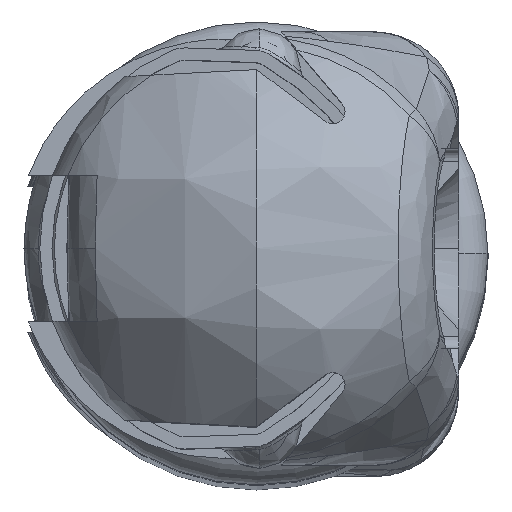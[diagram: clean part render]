
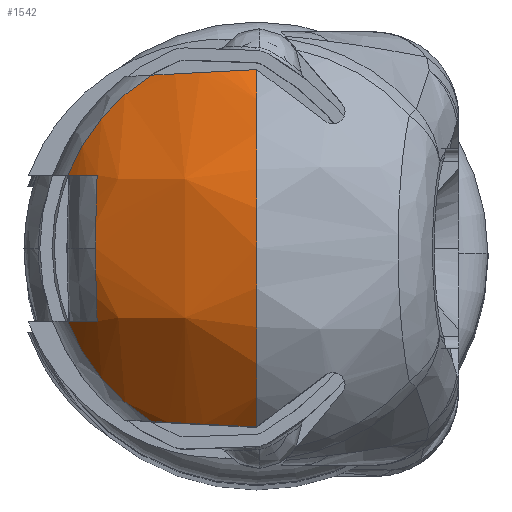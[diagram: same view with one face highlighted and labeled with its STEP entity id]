
A CAD part, top view. The second image highlights one B-rep face of the part: STEP entity #1542.
In plain terms, the highlighted free-form (B-spline) face has degree [3, 3] with [4, 4] control points.
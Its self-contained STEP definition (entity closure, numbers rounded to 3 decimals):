
#388 = CARTESIAN_POINT ( 'NONE',  ( -8.439, 3., 6.546 ) ) ;
#415 = CARTESIAN_POINT ( 'NONE',  ( -9.008, 0., 6.606 ) ) ;
#568 = CARTESIAN_POINT ( 'NONE',  ( -8.297, -7.335, 0. ) ) ;
#572 = CARTESIAN_POINT ( 'NONE',  ( -8.297, 7.335, 0. ) ) ;
#605 = CARTESIAN_POINT ( 'NONE',  ( -7.066, 3., 7.747 ) ) ;
#657 = CARTESIAN_POINT ( 'NONE',  ( -8.439, -3., 6.546 ) ) ;
#676 = CARTESIAN_POINT ( 'NONE',  ( -7.066, 7.11, 4.298 ) ) ;
#679 = CARTESIAN_POINT ( 'NONE',  ( -7.066, -7.11, 4.298 ) ) ;
#682 = CARTESIAN_POINT ( 'NONE',  ( -7.066, -3., 7.747 ) ) ;
#1542 = ADVANCED_FACE ( 'NONE', ( #7465 ), #7233, .T. ) ;
#1624 = EDGE_CURVE ( 'NONE', #5061, #5057, #2141, .T. ) ;
#1694 = EDGE_CURVE ( 'NONE', #5207, #5233, #2219, .T. ) ;
#2141 = CIRCLE ( 'NONE', #2151, 10. ) ;
#2151 = AXIS2_PLACEMENT_3D ( 'NONE', #13273, #13272, #13271 ) ;
#2219 = CIRCLE ( 'NONE', #2222, 8.157 ) ;
#2222 = AXIS2_PLACEMENT_3D ( 'NONE', #12966, #12965, #12964 ) ;
#2300 = CIRCLE ( 'NONE', #2307, 9.539 ) ;
#2307 = AXIS2_PLACEMENT_3D ( 'NONE', #18766, #18765, #18761 ) ;
#2313 = CIRCLE ( 'NONE', #2316, 8.157 ) ;
#2316 = AXIS2_PLACEMENT_3D ( 'NONE', #18664, #18663, #18662 ) ;
#2334 = CIRCLE ( 'NONE', #2338, 8.308 ) ;
#2338 = AXIS2_PLACEMENT_3D ( 'NONE', #18534, #18533, #18532 ) ;
#3192 = B_SPLINE_CURVE_WITH_KNOTS ( 'NONE', 3,
 ( #15466, #15467, #15468, #15469, #15470, #15471 ),
 .UNSPECIFIED., .F., .F.,
 ( 4, 2, 4 ),
 ( 0., 0.002, 0.005 ),
 .UNSPECIFIED. ) ;
#3193 = B_SPLINE_CURVE_WITH_KNOTS ( 'NONE', 3,
 ( #15472, #15473, #15474, #15475, #15476, #15477 ),
 .UNSPECIFIED., .F., .F.,
 ( 4, 2, 4 ),
 ( 0., 0.002, 0.005 ),
 .UNSPECIFIED. ) ;
#3365 = CIRCLE ( 'NONE', #3370, 8.308 ) ;
#3370 = AXIS2_PLACEMENT_3D ( 'NONE', #15407, #15408, #15409 ) ;
#3424 = CIRCLE ( 'NONE', #3426, 9.539 ) ;
#3426 = AXIS2_PLACEMENT_3D ( 'NONE', #15675, #15676, #15677 ) ;
#3967 = EDGE_LOOP ( 'NONE', ( #4383, #4385, #4384, #4387, #4386, #4388, #4389, #4390, #4391 ) ) ;
#4383 = ORIENTED_EDGE ( 'NONE', *, *, #1624, .F. ) ;
#4384 = ORIENTED_EDGE ( 'NONE', *, *, #9449, .T. ) ;
#4385 = ORIENTED_EDGE ( 'NONE', *, *, #18334, .F. ) ;
#4386 = ORIENTED_EDGE ( 'NONE', *, *, #9423, .T. ) ;
#4387 = ORIENTED_EDGE ( 'NONE', *, *, #9408, .T. ) ;
#4388 = ORIENTED_EDGE ( 'NONE', *, *, #1694, .T. ) ;
#4389 = ORIENTED_EDGE ( 'NONE', *, *, #18369, .F. ) ;
#4390 = ORIENTED_EDGE ( 'NONE', *, *, #18314, .F. ) ;
#4391 = ORIENTED_EDGE ( 'NONE', *, *, #18333, .F. ) ;
#4953 = VERTEX_POINT ( 'NONE', #682 ) ;
#4955 = VERTEX_POINT ( 'NONE', #679 ) ;
#4958 = VERTEX_POINT ( 'NONE', #676 ) ;
#4976 = VERTEX_POINT ( 'NONE', #657 ) ;
#5027 = VERTEX_POINT ( 'NONE', #605 ) ;
#5057 = VERTEX_POINT ( 'NONE', #572 ) ;
#5061 = VERTEX_POINT ( 'NONE', #568 ) ;
#5207 = VERTEX_POINT ( 'NONE', #415 ) ;
#5233 = VERTEX_POINT ( 'NONE', #388 ) ;
#7233 =( BOUNDED_SURFACE ( )  B_SPLINE_SURFACE ( 3, 3, ( 
 ( #11395, #11424, #11537, #11668 ),
 ( #11293, #11257, #11290, #11706 ),
 ( #11707, #11692, #11695, #11792 ),
 ( #10880, #11785, #11764, #11691 ) ),
 .UNSPECIFIED., .F., .F., .F. ) 
 B_SPLINE_SURFACE_WITH_KNOTS ( ( 4, 4 ),
 ( 4, 4 ),
 ( 0., 1. ),
 ( 0., 1. ),
 .UNSPECIFIED. ) 
 GEOMETRIC_REPRESENTATION_ITEM ( )  RATIONAL_B_SPLINE_SURFACE ( (
 ( 1., 0.926, 0.926, 1.),
 ( 0.782, 0.724, 0.724, 0.782),
 ( 0.782, 0.724, 0.724, 0.782),
 ( 1., 0.926, 0.926, 1.) ) ) 
 REPRESENTATION_ITEM ( '' )  SURFACE ( )  );
#7465 = FACE_OUTER_BOUND ( 'NONE', #3967, .T. ) ;
#9408 = EDGE_CURVE ( 'NONE', #4953, #4976, #2300, .T. ) ;
#9423 = EDGE_CURVE ( 'NONE', #4976, #5207, #2313, .T. ) ;
#9449 = EDGE_CURVE ( 'NONE', #4955, #4953, #2334, .T. ) ;
#10880 = CARTESIAN_POINT ( 'NONE',  ( -5.392, 7.402, 5.483 ) ) ;
#11257 = CARTESIAN_POINT ( 'NONE',  ( -11.169, -3.157, 7.113 ) ) ;
#11290 = CARTESIAN_POINT ( 'NONE',  ( -12.897, -3.157, 3.767 ) ) ;
#11293 = CARTESIAN_POINT ( 'NONE',  ( -8.097, -3.157, 9.293 ) ) ;
#11395 = CARTESIAN_POINT ( 'NONE',  ( -5.392, -7.402, 5.483 ) ) ;
#11424 = CARTESIAN_POINT ( 'NONE',  ( -7.204, -7.402, 4.197 ) ) ;
#11537 = CARTESIAN_POINT ( 'NONE',  ( -8.224, -7.402, 2.222 ) ) ;
#11668 = CARTESIAN_POINT ( 'NONE',  ( -8.224, -7.402, 0. ) ) ;
#11691 = CARTESIAN_POINT ( 'NONE',  ( -8.224, 7.402, 0. ) ) ;
#11692 = CARTESIAN_POINT ( 'NONE',  ( -11.169, 3.157, 7.113 ) ) ;
#11695 = CARTESIAN_POINT ( 'NONE',  ( -12.897, 3.157, 3.767 ) ) ;
#11706 = CARTESIAN_POINT ( 'NONE',  ( -12.897, -3.157, 0. ) ) ;
#11707 = CARTESIAN_POINT ( 'NONE',  ( -8.097, 3.157, 9.293 ) ) ;
#11764 = CARTESIAN_POINT ( 'NONE',  ( -8.224, 7.402, 2.222 ) ) ;
#11785 = CARTESIAN_POINT ( 'NONE',  ( -7.204, 7.402, 4.197 ) ) ;
#11792 = CARTESIAN_POINT ( 'NONE',  ( -12.897, 3.157, 0. ) ) ;
#12964 = DIRECTION ( 'NONE',  ( -0.995, 0., 0.105 ) ) ;
#12965 = DIRECTION ( 'NONE',  ( -0.105, 0., -0.995 ) ) ;
#12966 = CARTESIAN_POINT ( 'NONE',  ( -0.895, 0., 5.753 ) ) ;
#13271 = DIRECTION ( 'NONE',  ( 0., -1., 0. ) ) ;
#13272 = DIRECTION ( 'NONE',  ( 0., 0., -1. ) ) ;
#13273 = CARTESIAN_POINT ( 'NONE',  ( -1.5, 0., 0. ) ) ;
#15407 = CARTESIAN_POINT ( 'NONE',  ( -7.066, 0., 0. ) ) ;
#15408 = DIRECTION ( 'NONE',  ( 1., 0., 0. ) ) ;
#15409 = DIRECTION ( 'NONE',  ( 0., 0., -1. ) ) ;
#15466 = CARTESIAN_POINT ( 'NONE',  ( -8.297, 7.335, 0. ) ) ;
#15467 = CARTESIAN_POINT ( 'NONE',  ( -8.34, 7.295, 0.765 ) ) ;
#15468 = CARTESIAN_POINT ( 'NONE',  ( -8.256, 7.256, 1.516 ) ) ;
#15469 = CARTESIAN_POINT ( 'NONE',  ( -7.835, 7.178, 2.989 ) ) ;
#15470 = CARTESIAN_POINT ( 'NONE',  ( -7.508, 7.143, 3.671 ) ) ;
#15471 = CARTESIAN_POINT ( 'NONE',  ( -7.066, 7.11, 4.298 ) ) ;
#15472 = CARTESIAN_POINT ( 'NONE',  ( -7.066, -7.11, 4.298 ) ) ;
#15473 = CARTESIAN_POINT ( 'NONE',  ( -7.508, -7.143, 3.671 ) ) ;
#15474 = CARTESIAN_POINT ( 'NONE',  ( -7.834, -7.178, 2.99 ) ) ;
#15475 = CARTESIAN_POINT ( 'NONE',  ( -8.256, -7.256, 1.517 ) ) ;
#15476 = CARTESIAN_POINT ( 'NONE',  ( -8.34, -7.295, 0.765 ) ) ;
#15477 = CARTESIAN_POINT ( 'NONE',  ( -8.297, -7.335, 0. ) ) ;
#15675 = CARTESIAN_POINT ( 'NONE',  ( -1.5, 3., 0. ) ) ;
#15676 = DIRECTION ( 'NONE',  ( 0., -1., 0. ) ) ;
#15677 = DIRECTION ( 'NONE',  ( 1., 0., 0. ) ) ;
#18314 = EDGE_CURVE ( 'NONE', #4958, #5027, #3365, .T. ) ;
#18333 = EDGE_CURVE ( 'NONE', #5057, #4958, #3192, .T. ) ;
#18334 = EDGE_CURVE ( 'NONE', #4955, #5061, #3193, .T. ) ;
#18369 = EDGE_CURVE ( 'NONE', #5027, #5233, #3424, .T. ) ;
#18532 = DIRECTION ( 'NONE',  ( 0., 0., -1. ) ) ;
#18533 = DIRECTION ( 'NONE',  ( -1., 0., 0. ) ) ;
#18534 = CARTESIAN_POINT ( 'NONE',  ( -7.066, 0., 0. ) ) ;
#18662 = DIRECTION ( 'NONE',  ( -0.995, 0., 0.105 ) ) ;
#18663 = DIRECTION ( 'NONE',  ( -0.105, 0., -0.995 ) ) ;
#18664 = CARTESIAN_POINT ( 'NONE',  ( -0.895, 0., 5.753 ) ) ;
#18761 = DIRECTION ( 'NONE',  ( 1., 0., 0. ) ) ;
#18765 = DIRECTION ( 'NONE',  ( 0., -1., 0. ) ) ;
#18766 = CARTESIAN_POINT ( 'NONE',  ( -1.5, -3., 0. ) ) ;
